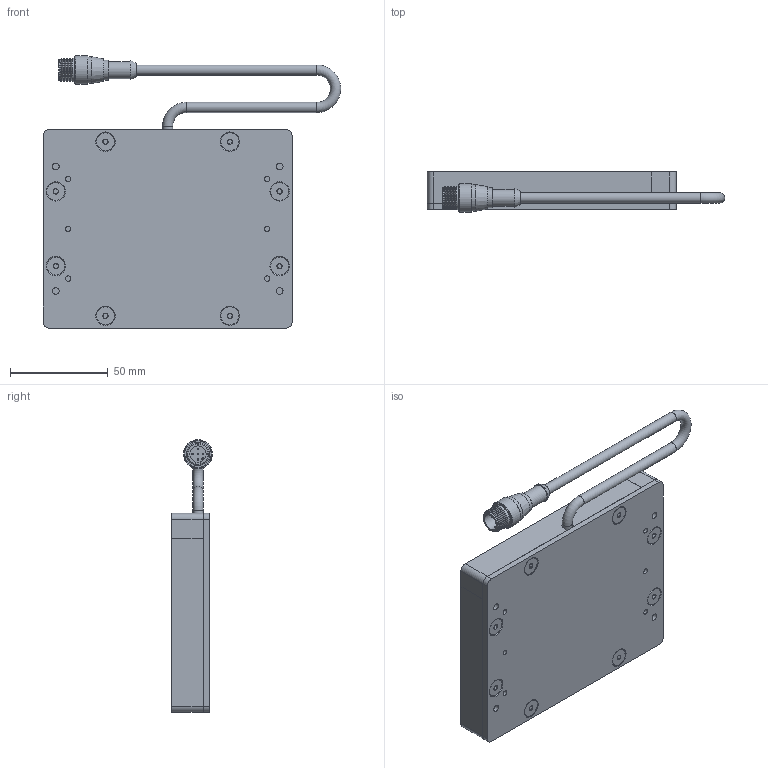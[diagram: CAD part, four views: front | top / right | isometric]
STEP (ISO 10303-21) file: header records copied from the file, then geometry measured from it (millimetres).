
FILE_DESCRIPTION (( 'STEP AP214' ), '1' );
FILE_NAME ('SBL34-XXX-WDC.STEP', '2026-04-17T18:34:06', ( '' ), ( '' ), 'SwSTEP 2.0', 'SolidWorks 2025', '' );
FILE_SCHEMA (( 'AUTOMOTIVE_DESIGN' ));
Length unit declared in the file: inch
Products named in the file (11): WD-SBLYYXX_3x4; BackPlate BLYYXX_0304; 8-32 x 0.375 FHCS (92210A192)_92210A192; SBL3 to 18in rail_04in rail; M12 Connector 4,5 and 8 pin_RS4.5T; SBL34-XXX-WDC; MC Pigtail 24; SBL3 to 18in rail_03in rail; Hex Standoff .375 x 8-32; SBL3 to 18in rail_04in No CG; SC Pigtail Complete 18_5pin
Assembly tree (25 placements, depth 3):
  SBL34-XXX-WDC
    BackPlate BLYYXX_0304
    SBL3 to 18in rail_04in rail
    SBL3 to 18in rail_04in No CG
    SBL3 to 18in rail_03in rail  x2
    SC Pigtail Complete 18_5pin
      MC Pigtail 24
      M12 Connector 4,5 and 8 pin_RS4.5T
    WD-SBLYYXX_3x4
    Hex Standoff .375 x 8-32  x8
    8-32 x 0.375 FHCS (92210A192)_92210A192  x8
Bounding box: 151.83 x 20.74 x 139.13 mm (x, y, z)
Volume: 146781.9 mm3; surface area: 92998.5 mm2
Topology: 24 solids, 24 shells, 636 faces, 1490 edges, 919 vertices
Faces by surface type: plane 255, cylinder 192, cone 139, bspline 24, torus 21, sphere 5
Full cylindrical faces by diameter (mm): 0.762 x5, 2.705 x6, 3.454 x12, 4.496 x16, 5.207 x3, 6.604 x8, 6.858 x8, 8.382 x1, 8.636 x1, 9.119 x8, 10.16 x1, 10.541 x1, 11.938 x1, 13.716 x2, 14.732 x1
Entity records: 12625 total; most frequent: CARTESIAN_POINT 3568, DIRECTION 1669, ORIENTED_EDGE 1350, AXIS2_PLACEMENT_3D 681, EDGE_CURVE 675, EDGE_LOOP 501, VERTEX_POINT 492, FACE_OUTER_BOUND 386
